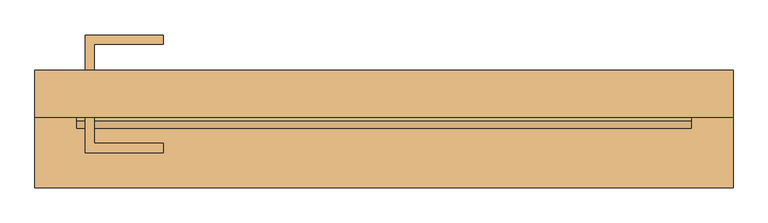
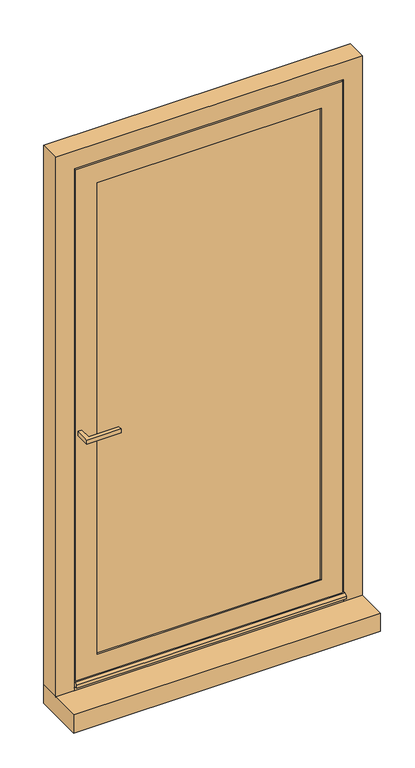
"""IFC4 building model written with IfcOpenShell, lengths in millimetres: door geometry, Reynaers_MasterLine 8_Door_Miter_Inward Opening_Single Vent : Reynaers_MasterLine 8_Door_Miter_Inward Opening_Single Vent."""

from ifc_helpers import new_model, si_unit, point, frame, frame_2d, origin, place, context, project, spatial, polyline, circle_curve, trimmed, segment, composite_curve, outline, extrude, faceted_brep, source, transform, mapped, element, save


def door_0cb914dd(model_context):
    return source(origin(), model_context, "Body", "SolidModel", [
        extrude(outline(polyline([(-488.0, -131.2), (-473.0, -131.2), (-473.0, -173.7), (-360.5, -173.7), (-360.5, -188.7), (-488.0, -188.7), (-488.0, -131.2)])), frame((0.0, 0.0, 1000.0), z_axis=(0.0, 0.0, 1.0), x_axis=(1.0, 0.0, 0.0)), (0.0, 0.0, 1.0), 15.0),
        extrude(outline(polyline([(-488.0, -54.2), (-488.0, 3.3), (-360.5, 3.3), (-360.5, -11.7), (-473.0, -11.7), (-473.0, -54.2), (-488.0, -54.2)])), frame((0.0, 0.0, 1000.0), z_axis=(0.0, 0.0, 1.0), x_axis=(1.0, 0.0, 0.0)), (0.0, 0.0, 1.0), 15.0),
        extrude(outline(polyline([(-570.0, -54.2), (570.0, -54.2), (570.0, -246.2), (-570.0, -246.2), (-570.0, -54.2)])), frame((0.0, 0.0, -71.5), z_axis=(0.0, 0.0, 1.0), x_axis=(1.0, 0.0, 0.0)), (0.0, 0.0, 1.0), 72.5),
        extrude(outline(polyline([(1994.0, 444.0), (1994.0, -444.0), (88.5, -444.0), (88.5, 444.0), (1994.0, 444.0)]), holes=[polyline([(1969.0, -419.0), (1969.0, 419.0), (113.5, 419.0), (113.5, -419.0), (1969.0, -419.0)])]), frame((0.0, -92.2, 0.0), z_axis=(0.0, 1.0, 0.0), x_axis=(0.0, 0.0, 1.0)), (0.0, 0.0, 1.0), 38.0),
        faceted_brep([(-501.5, -127.4, 0.0), (-501.5, -131.2, 0.0), (-570.0, -131.2, 0.0), (-570.0, -54.2, 0.0), (-527.5, -54.2, 0.0), (-527.5, -63.0, 0.0), (-516.5, -63.0, 0.0), (-516.5, -127.4, 0.0), (-516.5, -127.4, 2066.5), (516.5, -127.4, 2066.5), (516.5, -127.4, 0.0), (501.5, -127.4, 0.0), (501.5, -127.4, 2051.5), (-501.5, -127.4, 2051.5), (-570.0, -131.2, 2120.0), (-570.0, -54.2, 2120.0), (-501.5, -131.2, 2051.5), (501.5, -131.2, 2051.5), (501.5, -131.2, 0.0), (570.0, -131.2, 0.0), (570.0, -131.2, 2120.0), (570.0, -54.2, 2120.0), (516.5, -63.0, 0.0), (527.5, -63.0, 0.0), (527.5, -54.2, 0.0), (570.0, -54.2, 0.0), (-516.5, -63.0, 2066.5), (527.5, -54.2, 2077.5), (-527.5, -54.2, 2077.5), (516.5, -63.0, 2066.5), (-527.5, -63.0, 2077.5), (527.5, -63.0, 2077.5)], [[[0, 1, 2, 3, 4, 5, 6, 7]], [[7, 8, 9, 10, 11, 12, 13, 0]], [[2, 14, 15, 3]], [[1, 16, 17, 18, 19, 20, 14, 2]], [[0, 13, 16, 1]], [[14, 20, 21, 15]], [[13, 12, 17, 16]], [[11, 10, 22, 23, 24, 25, 19, 18]], [[20, 19, 25, 21]], [[12, 11, 18, 17]], [[6, 26, 8, 7]], [[3, 15, 21, 25, 24, 27, 28, 4]], [[26, 29, 9, 8]], [[29, 22, 10, 9]], [[5, 30, 31, 23, 22, 29, 26, 6]], [[4, 28, 30, 5]], [[28, 27, 31, 30]], [[27, 24, 23, 31]]]),
        extrude(outline(composite_curve([segment(polyline([(-54.2, 2.3), (-54.2, 1.0), (-131.4999853, 1.0), (-131.4999853, 13.7484538), (-124.1645993, 18.8847463)]), True, "CONTINUOUS"), segment(trimmed(circle_curve(frame_2d((-121.1881466, 20.5016353)), 3.3872704), [point((-124.1645993, 18.8847463))], [point((-124.4249457, 21.5))], False, "CARTESIAN"), True, "CONTINUOUS"), segment(polyline([(-124.4249457, 21.5), (-148.5001177, 21.5), (-148.5001177, 32.5), (-136.1364693, 37.0), (-122.4, 37.0), (-122.4, 26.0), (-110.7, 26.0), (-110.7, 18.8954051), (-106.5071436, 12.0), (-63.0, 12.0), (-63.0, 3.0699002), (-54.2, 2.3)]), True, "CONTINUOUS")], self_intersect=False)), frame((-501.5, 0.0, 0.0), z_axis=(1.0, 0.0, 0.0), x_axis=(0.0, 1.0, 0.0)), (0.0, 0.0, 1.0), 1003.0),
        faceted_brep([(-444.0, -54.2, 1994.0), (444.0, -54.2, 1994.0), (444.0, -127.2, 1994.0), (-444.0, -127.2, 1994.0), (-521.5, -58.0, 2071.5), (521.5, -58.0, 2071.5), (521.5, -54.2, 2071.5), (-521.5, -54.2, 2071.5), (444.0, -54.2, 88.5), (444.0, -127.2, 88.5), (521.5, -58.0, 11.0), (521.5, -54.2, 11.0), (-444.0, -54.2, 88.5), (-444.0, -127.2, 88.5), (-521.5, -58.0, 11.0), (-521.5, -54.2, 11.0), (-506.5, -58.0, 2056.5), (506.5, -58.0, 2056.5), (506.5, -58.0, 26.0), (-506.5, -58.0, 26.0), (-506.5, -122.4, 2056.5), (506.5, -122.4, 2056.5), (-495.5, -131.2, 2045.5), (495.5, -131.2, 2045.5), (495.5, -122.4, 2045.5), (-495.5, -122.4, 2045.5), (-417.0, -127.2, 1967.0), (417.0, -127.2, 1967.0), (417.0, -131.2, 1967.0), (-417.0, -131.2, 1967.0), (506.5, -122.4, 26.0), (495.5, -131.2, 37.0), (495.5, -122.4, 37.0), (417.0, -127.2, 115.5), (417.0, -131.2, 115.5), (-506.5, -122.4, 26.0), (-495.5, -131.2, 37.0), (-495.5, -122.4, 37.0), (-417.0, -127.2, 115.5), (-417.0, -131.2, 115.5)], [[[0, 1, 2, 3]], [[4, 5, 6, 7]], [[1, 8, 9, 2]], [[5, 10, 11, 6]], [[8, 12, 13, 9]], [[10, 14, 15, 11]], [[12, 0, 3, 13]], [[7, 6, 11, 15], [1, 0, 12, 8]], [[14, 4, 7, 15]], [[5, 4, 14, 10], [16, 17, 18, 19]], [[20, 21, 17, 16]], [[22, 23, 24, 25]], [[26, 27, 28, 29]], [[21, 30, 18, 17]], [[23, 31, 32, 24]], [[27, 33, 34, 28]], [[30, 35, 19, 18]], [[31, 36, 37, 32]], [[33, 38, 39, 34]], [[35, 20, 16, 19]], [[21, 20, 35, 30], [25, 24, 32, 37]], [[36, 22, 25, 37]], [[23, 22, 36, 31], [29, 28, 34, 39]], [[38, 26, 29, 39]], [[3, 2, 9, 13], [27, 26, 38, 33]]]),
        extrude(outline(polyline([(436.0, -96.2), (436.0, -123.2), (-436.0, -123.2), (-436.0, -96.2), (436.0, -96.2)])), frame((0.0, 0.0, 96.5), z_axis=(0.0, 0.0, 1.0), x_axis=(1.0, 0.0, 0.0)), (0.0, 0.0, 1.0), 1889.5),
    ])


if __name__ == "__main__":
    model = new_model("IFC4")
    model_context = context("Model", 3, world=origin())
    ifc_project = project(units=[si_unit("LENGTHUNIT", "METRE", prefix="MILLI")], contexts=[model_context])
    site = spatial("IfcSite", under=ifc_project)
    building = spatial("IfcBuilding", under=site)
    placement = place(None, origin())
    door_shape = door_0cb914dd(model_context)
    element("IfcDoor", 1, ObjectType="Reynaers_MasterLine 8_Door_Miter_Inward Opening_Single Vent : Reynaers_MasterLine 8_Door_Miter_Inward Opening_Single Vent", at=placement, inside=building, context=model_context, shape_type="MappedRepresentation", body=[
        mapped(door_shape, transform((0.0, 0.0, 0.0), x_axis=(1.0, 0.0, 0.0), y_axis=(0.0, 1.0, 0.0), z_axis=(0.0, 0.0, 1.0))),
    ])
    save(model, "model.ifc")
